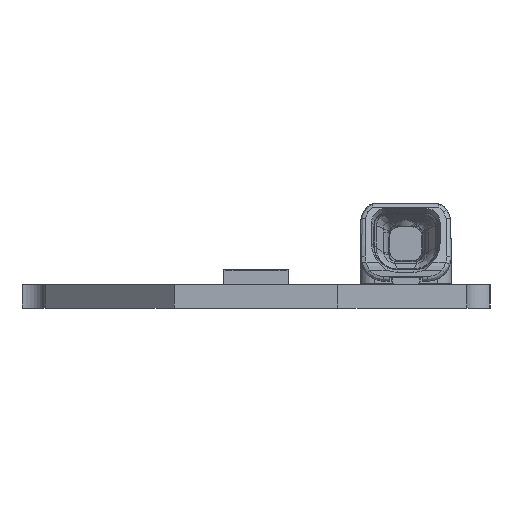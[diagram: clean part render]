
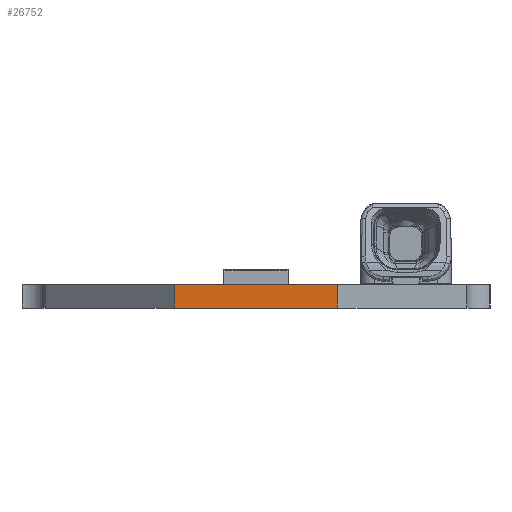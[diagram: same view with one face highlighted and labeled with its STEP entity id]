
A CAD part, left-side view. The second image highlights one B-rep face of the part: STEP entity #26752.
In plain terms, the highlighted planar face has unit normal (-1, 0, 0).
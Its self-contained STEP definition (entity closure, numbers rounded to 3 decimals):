
#1451=ORIENTED_EDGE('',*,*,#6840,.F.);
#1452=ORIENTED_EDGE('',*,*,#7010,.F.);
#1453=ORIENTED_EDGE('',*,*,#6958,.T.);
#1454=ORIENTED_EDGE('',*,*,#7009,.T.);
#6840=EDGE_CURVE('',#9694,#9695,#11534,.T.);
#6958=EDGE_CURVE('',#9762,#9812,#11610,.T.);
#7009=EDGE_CURVE('',#9812,#9695,#11661,.T.);
#7010=EDGE_CURVE('',#9762,#9694,#11662,.T.);
#9694=VERTEX_POINT('',#34331);
#9695=VERTEX_POINT('',#34333);
#9762=VERTEX_POINT('',#34468);
#9812=VERTEX_POINT('',#34568);
#11534=LINE('',#34332,#13742);
#11610=LINE('',#34569,#13818);
#11661=LINE('',#34670,#13869);
#11662=LINE('',#34672,#13870);
#13742=VECTOR('',#29306,1000.);
#13818=VECTOR('',#29468,1000.);
#13869=VECTOR('',#29619,1000.);
#13870=VECTOR('',#29622,1000.);
#15885=EDGE_LOOP('',(#1451,#1452,#1453,#1454));
#17081=FACE_BOUND('',#15885,.T.);
#18218=PLANE('',#27905);
#26752=ADVANCED_FACE('',(#17081),#18218,.T.);
#27905=AXIS2_PLACEMENT_3D('',#34671,#29620,#29621);
#29306=DIRECTION('',(0.,-1.,0.));
#29468=DIRECTION('',(0.,-1.,0.));
#29619=DIRECTION('',(0.,0.,1.));
#29620=DIRECTION('',(-1.,0.,0.));
#29621=DIRECTION('',(0.,0.,1.));
#29622=DIRECTION('',(0.,0.,1.));
#34331=CARTESIAN_POINT('',(-139.8,3.5,0.));
#34332=CARTESIAN_POINT('',(-139.8,3.5,0.));
#34333=CARTESIAN_POINT('',(-139.8,-3.5,0.));
#34468=CARTESIAN_POINT('',(-139.8,3.5,-1.));
#34568=CARTESIAN_POINT('',(-139.8,-3.5,-1.));
#34569=CARTESIAN_POINT('',(-139.8,3.5,-1.));
#34670=CARTESIAN_POINT('',(-139.8,-3.5,-1.));
#34671=CARTESIAN_POINT('',(-139.8,3.5,-1.));
#34672=CARTESIAN_POINT('',(-139.8,3.5,-1.));
